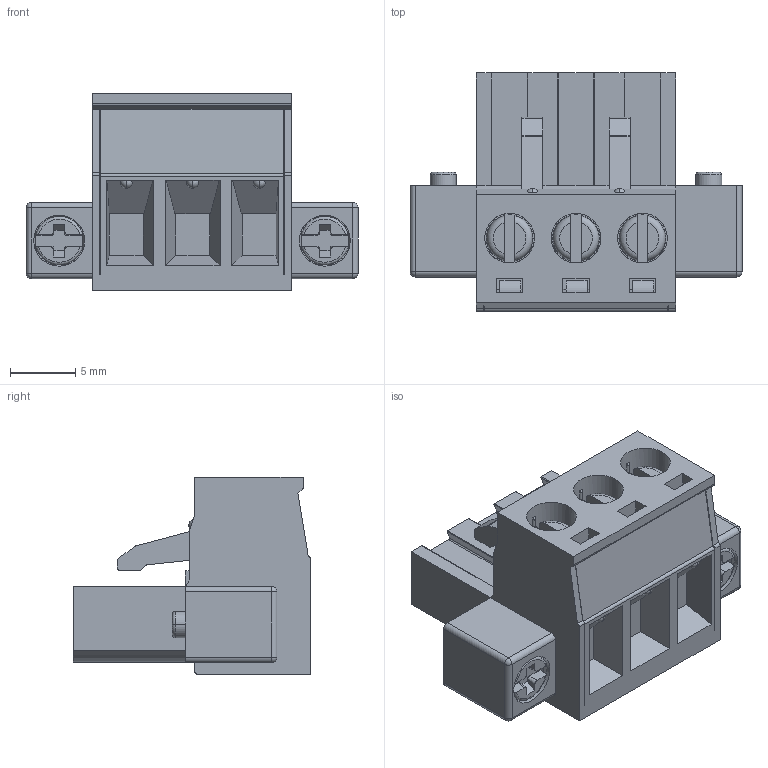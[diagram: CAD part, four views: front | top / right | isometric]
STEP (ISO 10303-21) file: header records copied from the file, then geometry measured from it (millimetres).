
FILE_DESCRIPTION((''),'2;1');
FILE_NAME('33','2019-04-04T',('zhenbing.lai'),(''),'CREO PARAMETRIC BY PTC INC, 2016260','CREO PARAMETRIC BY PTC INC, 2016260','');
FILE_SCHEMA(('CONFIG_CONTROL_DESIGN'));
Length unit declared in the file: millimetre
Products named in the file (1): 33
Bounding box: 25.4 x 18.2 x 15.1 mm (x, y, z)
Volume: 2885.5 mm3; surface area: 2351.2 mm2
Topology: 1 solids, 3 shells, 447 faces, 1245 edges, 807 vertices
Faces by surface type: plane 288, cylinder 102, cone 29, sphere 14, torus 14
Entity records: 14619 total; most frequent: CARTESIAN_POINT 3119, ORIENTED_EDGE 2462, DIRECTION 2303, EDGE_CURVE 1231, VECTOR 821, LINE 821, VERTEX_POINT 807, AXIS2_PLACEMENT_3D 741
